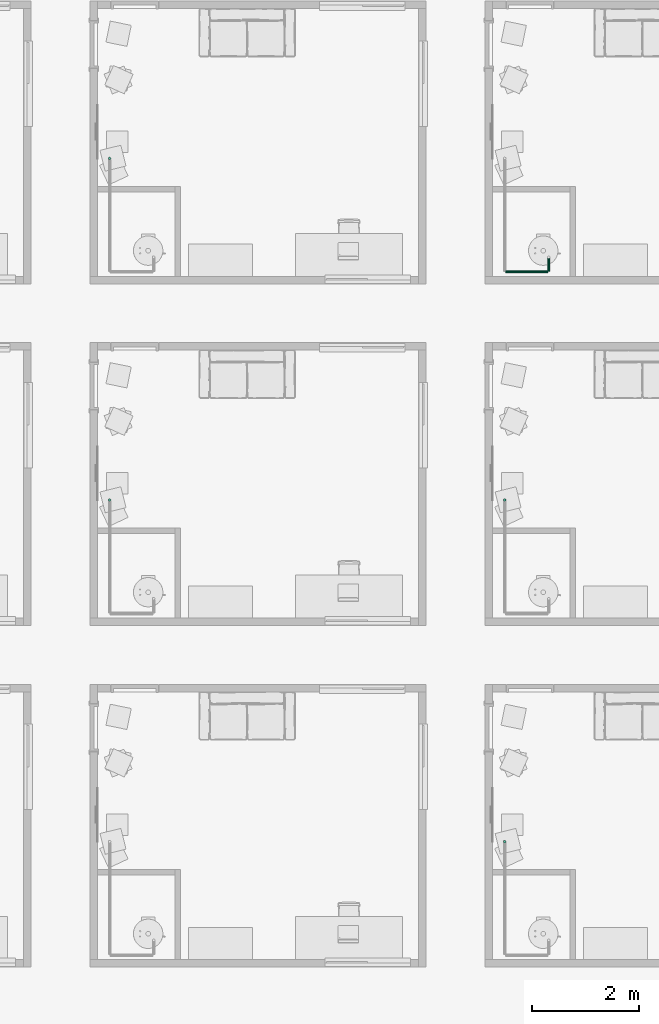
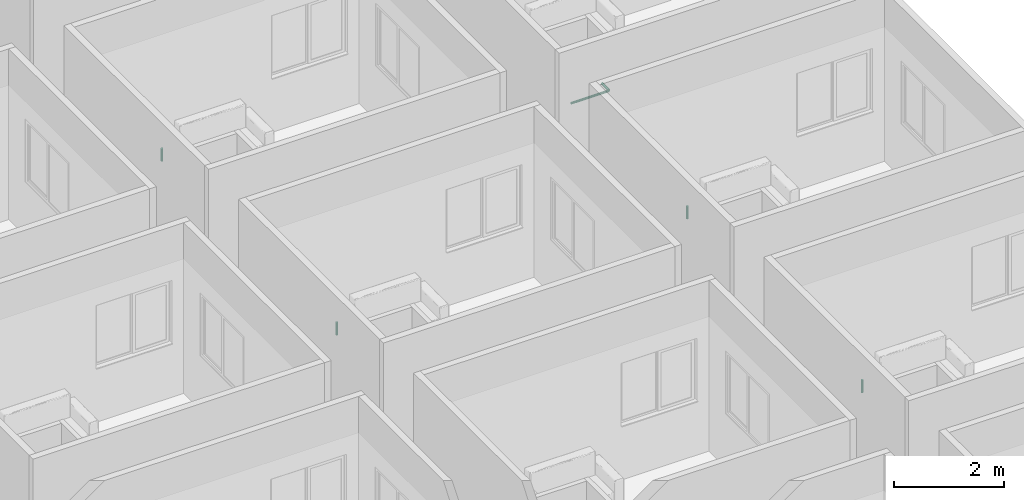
# One storey, part 53 of 72: 6 pipe segments.
"""IFC4 building model written with IfcOpenShell, lengths in centimetres."""

from ifc_helpers import new_model, entity, si_unit, converted_unit, derived_unit, direction, frame, origin, place, context, subcontext, project, spatial, arc, indexed_curve, outline, extrude, type_object, element, save


model = new_model("IFC4")

# Units and contexts
model_context = context("Model", 3, precision=0.001, world=origin(), true_north=direction((6.123233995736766e-17, 1.0)))
body_context = subcontext(model_context, "Body", "Model", "MODEL_VIEW")
ifc_project = project(units=[si_unit("LENGTHUNIT", "METRE", prefix="CENTI"), si_unit("AREAUNIT", "SQUARE_METRE"), si_unit("VOLUMEUNIT", "CUBIC_METRE"), derived_unit("THERMALTRANSMITTANCEUNIT", [(si_unit("MASSUNIT", "GRAM", prefix="KILO"), 1), (si_unit("THERMODYNAMICTEMPERATUREUNIT", "KELVIN"), -1), (si_unit("TIMEUNIT", "SECOND"), -3)]), converted_unit("PLANEANGLEUNIT", "DEGREE", entity("IfcPlaneAngleMeasure", 0.017453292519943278), si_unit("PLANEANGLEUNIT", "RADIAN"), dimensions=[0, 0, 0, 0, 0, 0, 0]), derived_unit("MASSDENSITYUNIT", [(si_unit("MASSUNIT", "GRAM", prefix="KILO"), 1), (si_unit("LENGTHUNIT", "METRE"), -3)]), derived_unit("VAPORPERMEABILITYUNIT", [(si_unit("LENGTHUNIT", "METRE"), -1), (si_unit("TIMEUNIT", "SECOND"), 1)]), derived_unit("USERDEFINED", [(si_unit("MASSUNIT", "GRAM", prefix="KILO"), 1), (si_unit("TIMEUNIT", "SECOND"), -3), (si_unit("LENGTHUNIT", "METRE"), 3), (si_unit("ELECTRICCURRENTUNIT", "AMPERE"), -2)]), derived_unit("SPECIFICHEATCAPACITYUNIT", [(si_unit("THERMODYNAMICTEMPERATUREUNIT", "KELVIN"), -1), (si_unit("LENGTHUNIT", "METRE"), 2), (si_unit("TIMEUNIT", "SECOND"), -2)]), derived_unit("THERMALCONDUCTANCEUNIT", [(si_unit("MASSUNIT", "GRAM", prefix="KILO"), 1), (si_unit("THERMODYNAMICTEMPERATUREUNIT", "KELVIN"), -1), (si_unit("TIMEUNIT", "SECOND"), -3), (si_unit("LENGTHUNIT", "METRE"), 1)]), si_unit("PRESSUREUNIT", "PASCAL"), derived_unit("MODULUSOFELASTICITYUNIT", [(si_unit("MASSUNIT", "GRAM", prefix="KILO"), 1), (si_unit("LENGTHUNIT", "METRE"), -1), (si_unit("TIMEUNIT", "SECOND"), -2)]), derived_unit("THERMALEXPANSIONCOEFFICIENTUNIT", [(si_unit("THERMODYNAMICTEMPERATUREUNIT", "KELVIN"), -1)])], contexts=[model_context])

# Site, building, storey
site_placement = place(None, origin())
site = spatial("IfcSite", under=ifc_project, at=site_placement, Name="Default", CompositionType="ELEMENT")
building_placement = place(site_placement, origin())
building = spatial("IfcBuilding", under=site, at=building_placement, Name="IDS Escape Game Building", CompositionType="ELEMENT")
storey_placement = place(building_placement, frame((0.0, 0.0, 800.0)))
storey = spatial("IfcBuildingStorey", under=building, at=storey_placement, Name="02_Second Floor", CompositionType="ELEMENT", Elevation=800.0)

# Pipe segments
pipe_segment_type = type_object("IfcPipeSegmentType", Name="Pipe Types:Piping Aluminum", PredefinedType="NOTDEFINED")
pipe_segment_1_placement = place(storey_placement, origin())
element("IfcPipeSegment", 1, at=pipe_segment_1_placement, inside=storey, type_object=pipe_segment_type, Name="Pipe Types:Piping Aluminum", ObjectType="Pipe Types:Piping Aluminum", PredefinedType="NOTDEFINED", context=body_context, shape_type="SweptSolid", body=[
    extrude(outline(indexed_curve([(2.4130000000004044, 0.0), (1.7062486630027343, 1.7062486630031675), (0.0, 2.412999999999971), (-1.7062486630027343, 1.7062486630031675), (-2.4130000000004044, 0.0), (-1.7062486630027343, -1.7062486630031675), (0.0, -2.412999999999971), (1.7062486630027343, -1.7062486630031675)], segments=[arc(1, 2, 3), arc(3, 4, 5), arc(5, 6, 7), arc(7, 8, 1)], self_intersect=False)), frame((4458.046716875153, 871.2648279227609, 244.09999999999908), z_axis=(0.0, 0.0, 1.0), x_axis=(-1.0, 0.0, 0.0)), (0.0, 0.0, 1.0), 27.90000000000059),
])
pipe_segment_2_placement = place(storey_placement, origin())
element("IfcPipeSegment", 2, at=pipe_segment_2_placement, inside=storey, type_object=pipe_segment_type, Name="Pipe Types:Piping Aluminum", ObjectType="Pipe Types:Piping Aluminum", PredefinedType="NOTDEFINED", context=body_context, shape_type="SweptSolid", body=[
    extrude(outline(indexed_curve([(2.412999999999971, 0.0), (1.7062486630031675, 1.7062486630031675), (0.0, 2.412999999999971), (-1.7062486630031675, 1.7062486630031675), (-2.412999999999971, 0.0), (-1.7062486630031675, -1.7062486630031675), (0.0, -2.412999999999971), (1.7062486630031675, -1.7062486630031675)], segments=[arc(1, 2, 3), arc(3, 4, 5), arc(5, 6, 7), arc(7, 8, 1)], self_intersect=False)), frame((3720.0467168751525, 1509.2648279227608, 244.09999999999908), z_axis=(0.0, 0.0, 1.0), x_axis=(-1.0, 0.0, 0.0)), (0.0, 0.0, 1.0), 27.90000000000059),
])
pipe_segment_3_placement = place(storey_placement, origin())
element("IfcPipeSegment", 3, at=pipe_segment_3_placement, inside=storey, type_object=pipe_segment_type, Name="Pipe Types:Piping Aluminum", ObjectType="Pipe Types:Piping Aluminum", PredefinedType="NOTDEFINED", context=body_context, shape_type="SweptSolid", body=[
    extrude(outline(indexed_curve([(2.4130000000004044, 0.0), (1.7062486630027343, 1.7062486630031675), (0.0, 2.412999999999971), (-1.7062486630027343, 1.7062486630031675), (-2.4130000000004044, 0.0), (-1.7062486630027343, -1.7062486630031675), (0.0, -2.412999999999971), (1.7062486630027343, -1.7062486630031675)], segments=[arc(1, 2, 3), arc(3, 4, 5), arc(5, 6, 7), arc(7, 8, 1)], self_intersect=False)), frame((4458.046716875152, 1509.2648279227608, 244.09999999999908), z_axis=(0.0, 0.0, 1.0), x_axis=(-1.0, 0.0, 0.0)), (0.0, 0.0, 1.0), 27.90000000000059),
])
pipe_segment_4_placement = place(storey_placement, origin())
element("IfcPipeSegment", 4, at=pipe_segment_4_placement, inside=storey, type_object=pipe_segment_type, Name="Pipe Types:Piping Aluminum", ObjectType="Pipe Types:Piping Aluminum", PredefinedType="NOTDEFINED", context=body_context, shape_type="SweptSolid", body=[
    extrude(outline(indexed_curve([(2.412999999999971, 0.0), (1.7062486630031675, 1.7062486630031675), (0.0, 2.412999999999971), (-1.7062486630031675, 1.7062486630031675), (-2.412999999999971, 0.0), (-1.7062486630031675, -1.7062486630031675), (0.0, -2.412999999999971), (1.7062486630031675, -1.7062486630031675)], segments=[arc(1, 2, 3), arc(3, 4, 5), arc(5, 6, 7), arc(7, 8, 1)], self_intersect=False)), frame((3720.0467168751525, 2147.264827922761, 244.09999999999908), z_axis=(0.0, 0.0, 1.0), x_axis=(-1.0, 0.0, 0.0)), (0.0, 0.0, 1.0), 27.90000000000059),
])
pipe_segment_5_placement = place(storey_placement, origin())
element("IfcPipeSegment", 5, at=pipe_segment_5_placement, inside=storey, type_object=pipe_segment_type, Name="Pipe Types:Piping Aluminum", ObjectType="Pipe Types:Piping Aluminum", PredefinedType="NOTDEFINED", context=body_context, shape_type="SweptSolid", body=[
    extrude(outline(indexed_curve([(2.412999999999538, -2.165734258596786e-13), (1.7062486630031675, 1.7062486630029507), (4.331468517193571e-13, 2.4130000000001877), (-1.706248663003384, 1.7062486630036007), (-2.4130000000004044, -2.165734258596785e-13), (-1.7062486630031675, -1.706248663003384), (4.3314685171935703e-13, -2.4129999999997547), (1.7062486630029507, -1.7062486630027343)], segments=[arc(1, 2, 3), arc(3, 4, 5), arc(5, 6, 7), arc(7, 8, 1)], self_intersect=False)), frame((4459.146716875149, 1935.2648279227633, 242.0), z_axis=(1.0, 0.0, 0.0), x_axis=(0.0, 1.0, 0.0)), (0.0, 0.0, 1.0), 79.90328312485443),
])
pipe_segment_6_placement = place(storey_placement, origin())
element("IfcPipeSegment", 6, at=pipe_segment_6_placement, inside=storey, type_object=pipe_segment_type, Name="Pipe Types:Piping Aluminum", ObjectType="Pipe Types:Piping Aluminum", PredefinedType="NOTDEFINED", context=body_context, shape_type="SweptSolid", body=[
    extrude(outline(indexed_curve([(2.412999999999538, 0.0), (1.7062486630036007, 1.706248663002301), (1.7325874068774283e-12, 2.412999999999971), (-1.7062486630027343, 1.7062486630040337), (-2.413000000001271, 0.0), (-1.7062486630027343, -1.7062486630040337), (1.7325874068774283e-12, -2.412999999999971), (1.7062486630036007, -1.706248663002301)], segments=[arc(1, 2, 3), arc(3, 4, 5), arc(5, 6, 7), arc(7, 8, 1)], self_intersect=False)), frame((4540.150000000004, 1936.3648279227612, 242.0), z_axis=(0.0, 1.0, 0.0), x_axis=(-1.0, 0.0, 0.0)), (0.0, 0.0, 1.0), 25.43517207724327),
])

save(model, "model.ifc")
